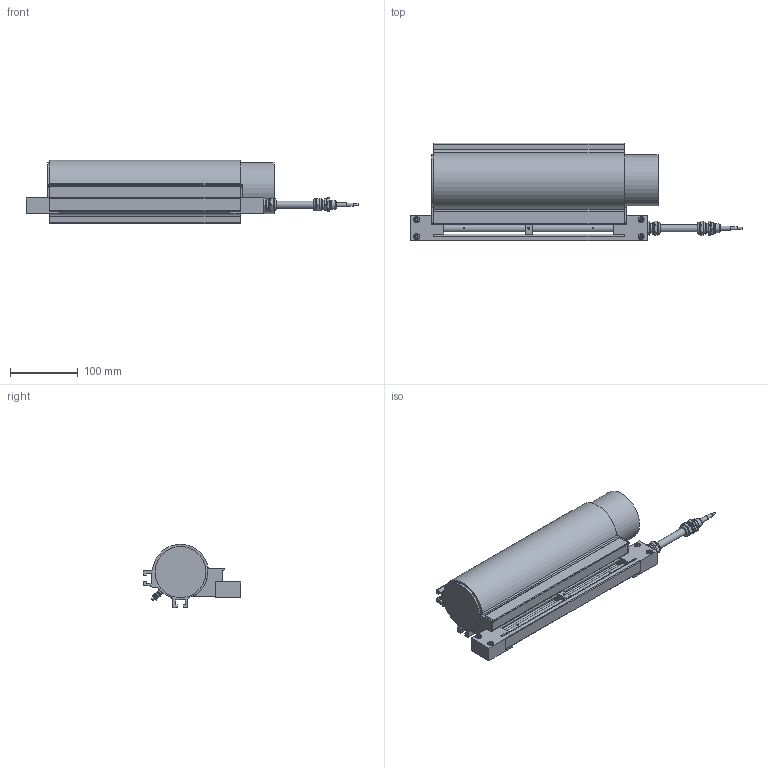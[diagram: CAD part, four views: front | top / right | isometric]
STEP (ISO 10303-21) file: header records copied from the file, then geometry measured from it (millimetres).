
FILE_DESCRIPTION(('Bauteilbeschreibung','HiCAD-Model','HiCAD-STEP-TRANSLATION','Bauteilbeschreibung'),'2;1');
FILE_NAME('TYPHOON MET EP-SH-N.STP','2014-01-27T12:53:21+00:00',('Konstrukteur'),('Konstrukteur Firma GmbH'),' HiCAD 2011, Step 1600.0 ','HiCAD 2011','confidential');
FILE_SCHEMA(('AUTOMOTIVE_DESIGN { 1 2 10303 214 0 1 1 1 }'));
Length unit declared in the file: millimetre
Products named in the file (3): TYPHOON MET EP_SH_N; LUCHTMES; EP_SH_N_5
Assembly tree (2 placements, depth 2):
  TYPHOON MET EP_SH_N
    LUCHTMES
    EP_SH_N_5
Bounding box: 488.58 x 143.87 x 93.22 mm (x, y, z)
Volume: 774345.9 mm3; surface area: 313151.3 mm2
Topology: 16 solids, 22 shells, 815 faces, 2077 edges, 1364 vertices
Faces by surface type: plane 429, cylinder 289, cone 60, torus 35, sphere 2
Full cylindrical faces by diameter (mm): 1.42 x2, 2.387 x1, 2.5 x3, 2.792 x1, 3 x13, 3.141 x6, 3.3 x3, 3.752 x1, 4 x12, 4.26 x1, 4.4 x1, 4.773 x1, 5 x1, 6 x1, 6.2 x2, 6.4 x2, 6.5 x4, 7 x3, 7.6 x1, 7.65 x1, 8.8 x2, 10 x2, 10.2 x2, 10.4 x3, 10.6 x1, 10.8 x3, 11 x2, 11.5 x2, 12 x1, 12.75 x2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
Entity records: 46901 total; most frequent: CARTESIAN_POINT 14073, DIRECTION 3880, ORIENTED_EDGE 3508, COLOUR_RGB 2408, PRESENTATION_STYLE_ASSIGNMENT 2408, OVER_RIDING_STYLED_ITEM 2406, EDGE_CURVE 1754, CURVE_STYLE 1662
